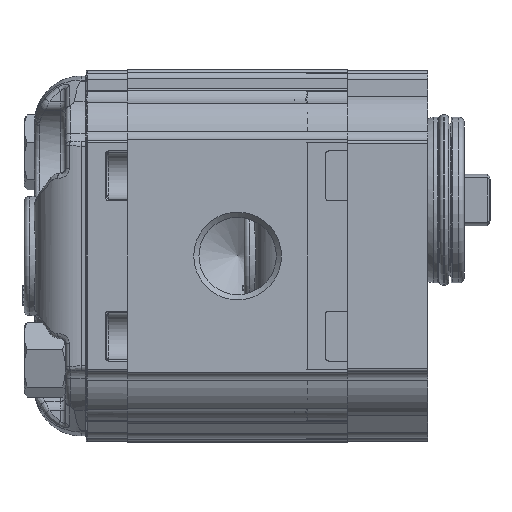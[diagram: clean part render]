
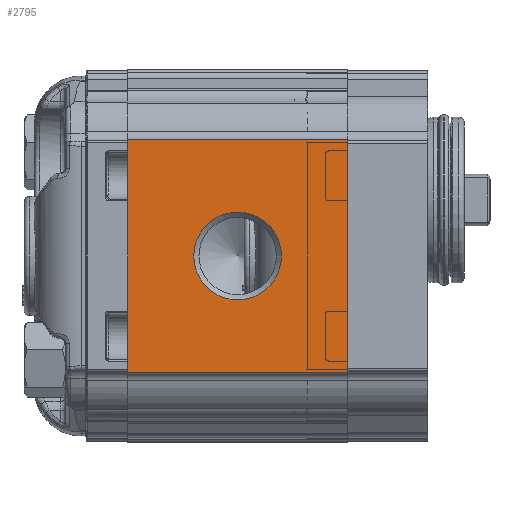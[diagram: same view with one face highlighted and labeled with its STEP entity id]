
A CAD part, left-side view. The second image highlights one B-rep face of the part: STEP entity #2795.
In plain terms, the highlighted planar face has unit normal (-1, 0, 0).
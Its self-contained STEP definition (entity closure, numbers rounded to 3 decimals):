
#2795 = ADVANCED_FACE( '', ( #7022, #7023 ), #7024, .T. );
#7022 = FACE_BOUND( '', #13989, .T. );
#7023 = FACE_OUTER_BOUND( '', #13990, .T. );
#7024 = PLANE( '', #13991 );
#13989 = EDGE_LOOP( '', ( #24882 ) );
#13990 = EDGE_LOOP( '', ( #24883, #24884, #24885, #24886 ) );
#13991 = AXIS2_PLACEMENT_3D( '', #24887, #24888, #24889 );
#24882 = ORIENTED_EDGE( '', *, *, #39511, .F. );
#24883 = ORIENTED_EDGE( '', *, *, #39512, .T. );
#24884 = ORIENTED_EDGE( '', *, *, #39513, .T. );
#24885 = ORIENTED_EDGE( '', *, *, #39514, .T. );
#24886 = ORIENTED_EDGE( '', *, *, #39515, .F. );
#24887 = CARTESIAN_POINT( '', ( -33., 125.178, 48.138 ) );
#24888 = DIRECTION( '', ( -1., 0., 0. ) );
#24889 = DIRECTION( '', ( 0., 0., 1. ) );
#39511 = EDGE_CURVE( '', #47519, #47519, #47520, .F. );
#39512 = EDGE_CURVE( '', #47521, #47522, #47523, .T. );
#39513 = EDGE_CURVE( '', #47522, #47524, #47525, .T. );
#39514 = EDGE_CURVE( '', #47524, #47526, #47527, .F. );
#39515 = EDGE_CURVE( '', #47521, #47526, #47528, .T. );
#47519 = VERTEX_POINT( '', #61002 );
#47520 = CIRCLE( '', #61003, 8.475 );
#47521 = VERTEX_POINT( '', #61004 );
#47522 = VERTEX_POINT( '', #61005 );
#47523 = LINE( '', #61006, #61007 );
#47524 = VERTEX_POINT( '', #61008 );
#47525 = LINE( '', #61009, #61010 );
#47526 = VERTEX_POINT( '', #61011 );
#47527 = LINE( '', #61012, #61013 );
#47528 = LINE( '', #61014, #61015 );
#61002 = CARTESIAN_POINT( '', ( -33., 21.25, -8.475 ) );
#61003 = AXIS2_PLACEMENT_3D( '', #74256, #74257, #74258 );
#61004 = CARTESIAN_POINT( '', ( -33., 42.5, -22.5 ) );
#61005 = CARTESIAN_POINT( '', ( -33., 0., -22.5 ) );
#61006 = CARTESIAN_POINT( '', ( -33., 42.5, -22.5 ) );
#61007 = VECTOR( '', #74259, 1000. );
#61008 = CARTESIAN_POINT( '', ( -33., 0., 22.5 ) );
#61009 = CARTESIAN_POINT( '', ( -33., 0., -21.711 ) );
#61010 = VECTOR( '', #74260, 1000. );
#61011 = CARTESIAN_POINT( '', ( -33., 42.5, 22.5 ) );
#61012 = CARTESIAN_POINT( '', ( -33., 42.5, 22.5 ) );
#61013 = VECTOR( '', #74261, 1000. );
#61014 = CARTESIAN_POINT( '', ( -33., 42.5, -21.711 ) );
#61015 = VECTOR( '', #74262, 1000. );
#74256 = CARTESIAN_POINT( '', ( -33., 21.25, 0. ) );
#74257 = DIRECTION( '', ( 1., 0., 0. ) );
#74258 = DIRECTION( '', ( 0., 0., -1. ) );
#74259 = DIRECTION( '', ( 0., -1., 0. ) );
#74260 = DIRECTION( '', ( 0., 0., 1. ) );
#74261 = DIRECTION( '', ( 0., -1., 0. ) );
#74262 = DIRECTION( '', ( 0., 0., 1. ) );
